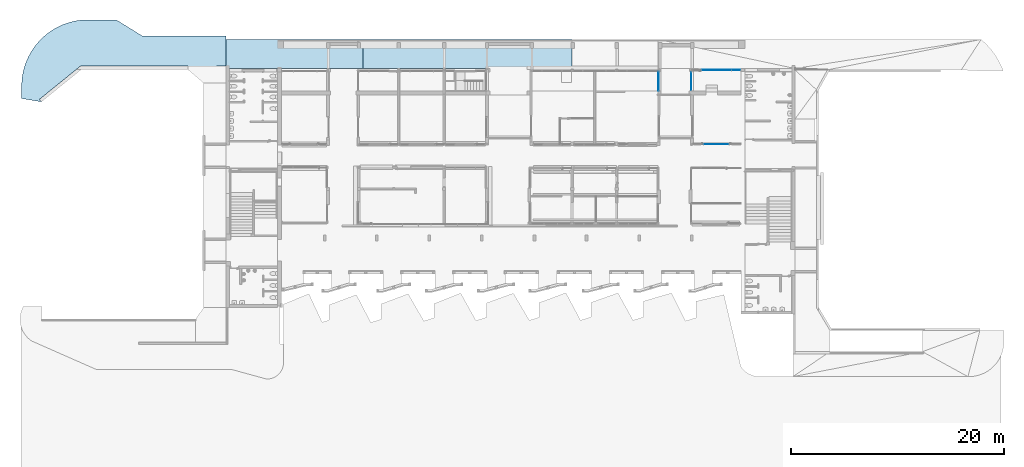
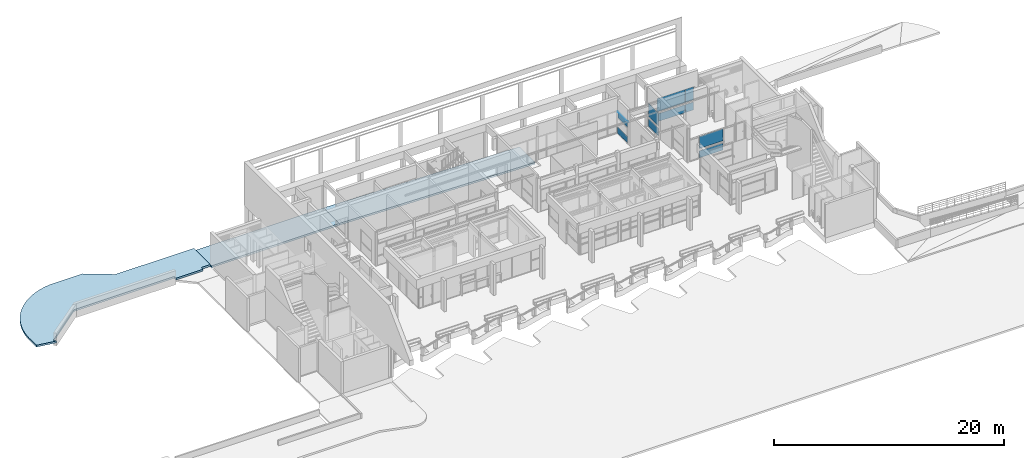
# One storey, part 45 of 117: 11 plates, 3 slabs, 5 elements without a shape of their own.
"""IFC4 building model written with IfcOpenShell, lengths in metres."""

from ifc_helpers import new_model, entity, si_unit, converted_unit, derived_unit, direction, frame, origin, place, context, subcontext, project, spatial, line, arc, indexed_curve, outline, extrude, source, transform, mapped, material, type_object, type_shapes, element, aggregate, save


model = new_model("IFC4")

# Units and contexts
model_context = context("Model", 3, precision=1e-05, world=origin(), true_north=direction((6.123031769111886e-17, 1.0)))
body_context = subcontext(model_context, "Body", "Model", "MODEL_VIEW")
ifc_project = project(units=[si_unit("LENGTHUNIT", "METRE"), si_unit("AREAUNIT", "SQUARE_METRE"), si_unit("VOLUMEUNIT", "CUBIC_METRE"), converted_unit("PLANEANGLEUNIT", "DEGREE", entity("IfcRatioMeasure", 0.017453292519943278), si_unit("PLANEANGLEUNIT", "RADIAN"), dimensions=[0, 0, 0, 0, 0, 0, 0]), si_unit("MASSUNIT", "GRAM", prefix="KILO"), derived_unit("MASSDENSITYUNIT", [(si_unit("MASSUNIT", "GRAM", prefix="KILO"), 1), (si_unit("LENGTHUNIT", "METRE"), -3)]), derived_unit("MOMENTOFINERTIAUNIT", [(si_unit("LENGTHUNIT", "METRE"), 4)]), si_unit("TIMEUNIT", "SECOND"), si_unit("FREQUENCYUNIT", "HERTZ"), si_unit("THERMODYNAMICTEMPERATUREUNIT", "DEGREE_CELSIUS"), derived_unit("THERMALTRANSMITTANCEUNIT", [(si_unit("MASSUNIT", "GRAM", prefix="KILO"), 1), (si_unit("THERMODYNAMICTEMPERATUREUNIT", "KELVIN"), -1), (si_unit("TIMEUNIT", "SECOND"), -3)]), derived_unit("VOLUMETRICFLOWRATEUNIT", [(si_unit("LENGTHUNIT", "METRE"), 3), (si_unit("TIMEUNIT", "SECOND"), -1)]), derived_unit("MASSFLOWRATEUNIT", [(si_unit("MASSUNIT", "GRAM", prefix="KILO"), 1), (si_unit("TIMEUNIT", "SECOND"), -1)]), derived_unit("ROTATIONALFREQUENCYUNIT", [(si_unit("TIMEUNIT", "SECOND"), -1)]), si_unit("ELECTRICCURRENTUNIT", "AMPERE"), si_unit("ELECTRICVOLTAGEUNIT", "VOLT"), si_unit("POWERUNIT", "WATT"), si_unit("FORCEUNIT", "NEWTON", prefix="KILO"), si_unit("ILLUMINANCEUNIT", "LUX"), si_unit("LUMINOUSFLUXUNIT", "LUMEN"), si_unit("LUMINOUSINTENSITYUNIT", "CANDELA"), derived_unit("USERDEFINED", [(si_unit("MASSUNIT", "GRAM", prefix="KILO"), -1), (si_unit("LENGTHUNIT", "METRE"), -2), (si_unit("TIMEUNIT", "SECOND"), 3), (si_unit("LUMINOUSFLUXUNIT", "LUMEN"), 1)]), derived_unit("SOUNDPOWERUNIT", [(si_unit("MASSUNIT", "GRAM", prefix="KILO"), 1), (si_unit("LENGTHUNIT", "METRE"), 2), (si_unit("TIMEUNIT", "SECOND"), -3)]), derived_unit("SOUNDPRESSUREUNIT", [(si_unit("MASSUNIT", "GRAM", prefix="KILO"), 1), (si_unit("LENGTHUNIT", "METRE"), -1), (si_unit("TIMEUNIT", "SECOND"), -2)]), derived_unit("LINEARVELOCITYUNIT", [(si_unit("LENGTHUNIT", "METRE"), 1), (si_unit("TIMEUNIT", "SECOND"), -1)]), si_unit("PRESSUREUNIT", "PASCAL"), derived_unit("USERDEFINED", [(si_unit("LENGTHUNIT", "METRE"), -2), (si_unit("MASSUNIT", "GRAM", prefix="KILO"), 1), (si_unit("TIMEUNIT", "SECOND"), -2)]), derived_unit("LINEARFORCEUNIT", [(si_unit("MASSUNIT", "GRAM", prefix="KILO"), 1), (si_unit("LENGTHUNIT", "METRE"), 1), (si_unit("TIMEUNIT", "SECOND"), -2), (si_unit("LENGTHUNIT", "METRE"), -1)]), derived_unit("PLANARFORCEUNIT", [(si_unit("MASSUNIT", "GRAM", prefix="KILO"), 1), (si_unit("LENGTHUNIT", "METRE"), 1), (si_unit("TIMEUNIT", "SECOND"), -2), (si_unit("LENGTHUNIT", "METRE"), -2)])], contexts=[model_context])

# Site, building, storey
site_placement = place(None, origin())
site = spatial("IfcSite", under=ifc_project, at=site_placement, Name="Superficie", CompositionType="ELEMENT")
building_placement = place(site_placement, origin())
building = spatial("IfcBuilding", under=site, at=building_placement, CompositionType="ELEMENT")
storey_placement = place(building_placement, origin())
storey = spatial("IfcBuildingStorey", under=building, at=storey_placement, Name="Nivel 0", CompositionType="ELEMENT", Elevation=0.0)

# Curtain wall, plates
curtain_wall_type = type_object("IfcCurtainWallType", Name="Muro cortina:Muro cortina - simple", PredefinedType="NOTDEFINED")
curtain_wall_1_placement = place(storey_placement, origin())
curtain_wall_1 = element("IfcCurtainWall", 1, at=curtain_wall_1_placement, inside=storey, type_object=curtain_wall_type, Name="Muro cortina:Muro cortina - simple", ObjectType="Muro cortina:Muro cortina - simple", PredefinedType="NOTDEFINED")
ifc_material_1 = material(Name="Cristal", Category="Vidrio")
plate_type_1 = type_object("IfcPlateType", Name="Panel de sistema:Acristalado", PredefinedType="CURTAIN_PANEL", material=ifc_material_1)
shared_shape_1 = source(origin(), body_context, "Body", "SweptSolid", [
    extrude(outline(indexed_curve([(-0.01, -1.1825000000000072), (0.01, -1.1825000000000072), (0.01, 1.1825000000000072), (-0.01, 1.1825000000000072), (-0.01, -1.1825000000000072)], self_intersect=False)), frame((0.0, 0.0, 0.0), z_axis=(0.0, 0.0, 1.0), x_axis=(0.0, 1.0, 0.0)), (0.0, 0.0, 1.0), 0.7500000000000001),
])
type_shapes(plate_type_1, [shared_shape_1])
plate_1_placement = place(curtain_wall_1_placement, frame((18.27929901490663, 5.766739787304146, 0.04499999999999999)))
plate_1 = element("IfcPlate", 2, at=plate_1_placement, type_object=plate_type_1, material=ifc_material_1, Name="Panel de sistema:Acristalado", ObjectType="Panel de sistema:Acristalado", PredefinedType="CURTAIN_PANEL", context=body_context, shape_type="MappedRepresentation", body=[
    mapped(shared_shape_1, transform((0.0, 0.0, 0.0), scale=1.0)),
])
plate_type_2 = type_object("IfcPlateType", Name="Panel de sistema:Acristalado", PredefinedType="CURTAIN_PANEL", material=ifc_material_1)
shared_shape_2 = source(origin(), body_context, "Body", "SweptSolid", [
    extrude(outline(indexed_curve([(-0.01, -1.1825000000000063), (0.01, -1.1825000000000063), (0.01, 1.1825000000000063), (-0.01, 1.1825000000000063), (-0.01, -1.1825000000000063)], self_intersect=False)), frame((0.0, 0.0, 0.0), z_axis=(0.0, 0.0, 1.0), x_axis=(0.0, 1.0, 0.0)), (0.0, 0.0, 1.0), 1.2849999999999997),
])
type_shapes(plate_type_2, [shared_shape_2])
plate_2_placement = place(curtain_wall_1_placement, frame((18.27929901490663, 5.766739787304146, 1.0450000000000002)))
plate_2 = element("IfcPlate", 3, at=plate_2_placement, type_object=plate_type_2, material=ifc_material_1, Name="Panel de sistema:Acristalado", ObjectType="Panel de sistema:Acristalado", PredefinedType="CURTAIN_PANEL", context=body_context, shape_type="MappedRepresentation", body=[
    mapped(shared_shape_2, transform((0.0, 0.0, 0.0), scale=1.0)),
])
aggregate(curtain_wall_1, [plate_1, plate_2])

# Slab
ifc_material_2 = material(Name="Suelos por defecto", Category="Genérico")
slab_type_1 = type_object("IfcSlabType", Name="Suelo:Por defecto - 20 cm 2", PredefinedType="FLOOR", material=ifc_material_2)
slab_1_placement = place(storey_placement, origin())
element("IfcSlab", 4, at=slab_1_placement, inside=storey, type_object=slab_type_1, material=ifc_material_2, Name="Suelo:Por defecto - 20 cm 2", ObjectType="Suelo:Por defecto - 20 cm 2", PredefinedType="FLOOR", context=body_context, shape_type="SweptSolid", body=[
    extrude(outline(indexed_curve([(-2.688900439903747, -9.14633842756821), (0.1610995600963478, -9.14633842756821), (0.16109956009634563, -8.22633842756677), (0.46109956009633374, -8.22633842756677), (0.46109956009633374, -5.526338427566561), (0.16109956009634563, -5.526338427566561), (0.16109956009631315, 4.5798971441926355), (3.278699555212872, 8.429812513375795), (3.511843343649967, 8.241016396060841), (3.1992307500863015, 10.104482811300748), (2.199230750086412, 10.10448281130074), (-2.1256870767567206, 8.52033828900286), (-4.18890043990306, 4.402380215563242), (-4.18890043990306, 1.1814758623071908), (-2.688900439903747, -1.245517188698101)], segments=[line(1, 2, 3, 4, 5, 6, 7, 8, 9, 10, 11), arc(11, 12, 13), line(13, 14, 15, 1)], self_intersect=False)), frame((-36.98953941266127, 13.256928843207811, 0.0), z_axis=(0.0, 0.0, -1.0), x_axis=(0.0, -1.0, 0.0)), (0.0, 0.0, 1.0), 0.2),
])

# Curtain wall, plates
curtain_wall_2_placement = place(storey_placement, origin())
curtain_wall_2 = element("IfcCurtainWall", 5, at=curtain_wall_2_placement, inside=storey, type_object=curtain_wall_type, Name="Muro cortina:Muro cortina - simple", ObjectType="Muro cortina:Muro cortina - simple", PredefinedType="NOTDEFINED")
plate_type_3 = type_object("IfcPlateType", Name="Panel de sistema:Acristalado", PredefinedType="CURTAIN_PANEL", material=ifc_material_1)
shared_shape_3 = source(origin(), body_context, "Body", "SweptSolid", [
    extrude(outline(indexed_curve([(-0.01, -0.8843595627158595), (0.01, -0.8843595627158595), (0.01, 0.8843595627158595), (-0.01, 0.8843595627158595), (-0.01, -0.8843595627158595)], self_intersect=False)), frame((0.0, 0.0, 0.0), z_axis=(0.0, 0.0, 1.0), x_axis=(0.0, 1.0, 0.0)), (0.0, 0.0, 1.0), 0.6761203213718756),
])
type_shapes(plate_type_3, [shared_shape_3])
plate_3_placement = place(curtain_wall_2_placement, frame((12.840568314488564, 11.700188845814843, 0.028879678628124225), z_axis=(0.0, 0.0, 1.0), x_axis=(0.0, 1.0, 0.0)))
plate_3 = element("IfcPlate", 6, at=plate_3_placement, type_object=plate_type_3, material=ifc_material_1, Name="Panel de sistema:Acristalado", ObjectType="Panel de sistema:Acristalado", PredefinedType="CURTAIN_PANEL", context=body_context, shape_type="MappedRepresentation", body=[
    mapped(shared_shape_3, transform((0.0, 0.0, 0.0), scale=1.0)),
])
plate_type_4 = type_object("IfcPlateType", Name="Panel de sistema:Acristalado", PredefinedType="CURTAIN_PANEL", material=ifc_material_1)
shared_shape_4 = source(origin(), body_context, "Body", "SweptSolid", [
    extrude(outline(indexed_curve([(-0.01, -0.8593595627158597), (0.01, -0.8593595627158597), (0.01, 0.8593595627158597), (-0.01, 0.8593595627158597), (-0.01, -0.8593595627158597)], self_intersect=False)), frame((0.0, 0.0, 0.0), z_axis=(0.0, 0.0, 1.0), x_axis=(0.0, 1.0, 0.0)), (0.0, 0.0, 1.0), 0.5750000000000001),
])
type_shapes(plate_type_4, [shared_shape_4])
plate_4_placement = place(curtain_wall_2_placement, frame((12.840568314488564, 11.675188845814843, 1.7049999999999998), z_axis=(0.0, 0.0, 1.0), x_axis=(0.0, 1.0, 0.0)))
plate_4 = element("IfcPlate", 7, at=plate_4_placement, type_object=plate_type_4, material=ifc_material_1, Name="Panel de sistema:Acristalado", ObjectType="Panel de sistema:Acristalado", PredefinedType="CURTAIN_PANEL", context=body_context, shape_type="MappedRepresentation", body=[
    mapped(shared_shape_4, transform((0.0, 0.0, 0.0), scale=1.0)),
])
plate_type_5 = type_object("IfcPlateType", Name="Panel de sistema:Acristalado", PredefinedType="CURTAIN_PANEL", material=ifc_material_1)
shared_shape_5 = source(origin(), body_context, "Body", "SweptSolid", [
    extrude(outline(indexed_curve([(-0.01, -0.8968595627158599), (0.01, -0.8968595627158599), (0.01, 0.8968595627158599), (-0.01, 0.8968595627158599), (-0.01, -0.8968595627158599)], self_intersect=False)), frame((0.0, 0.0, 0.0), z_axis=(0.0, 0.0, 1.0), x_axis=(0.0, 1.0, 0.0)), (0.0, 0.0, 1.0), 0.020000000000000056),
])
type_shapes(plate_type_5, [shared_shape_5])
plate_5_placement = place(curtain_wall_2_placement, frame((12.840568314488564, 11.687688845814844, 2.33), z_axis=(0.0, 0.0, 1.0), x_axis=(0.0, 1.0, 0.0)))
plate_5 = element("IfcPlate", 8, at=plate_5_placement, type_object=plate_type_5, material=ifc_material_1, Name="Panel de sistema:Acristalado", ObjectType="Panel de sistema:Acristalado", PredefinedType="CURTAIN_PANEL", context=body_context, shape_type="MappedRepresentation", body=[
    mapped(shared_shape_5, transform((0.0, 0.0, 0.0), scale=1.0)),
])
aggregate(curtain_wall_2, [plate_3, plate_4, plate_5])

# Slab
slab_type_2 = type_object("IfcSlabType", Name="Suelo:Por defecto - 20 cm 2", PredefinedType="FLOOR", material=ifc_material_2)
slab_2_placement = place(storey_placement, origin())
element("IfcSlab", 9, at=slab_2_placement, inside=storey, type_object=slab_type_2, material=ifc_material_2, Name="Suelo:Por defecto - 20 cm 2", ObjectType="Suelo:Por defecto - 20 cm 2", PredefinedType="FLOOR", context=body_context, shape_type="SweptSolid", body=[
    extrude(outline(indexed_curve([(-1.3749999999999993, -6.4244779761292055), (1.3749999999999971, -6.4244779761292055), (1.3749999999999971, 6.42447797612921), (-1.3749999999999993, 6.42447797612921), (-1.3749999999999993, -6.4244779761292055)], self_intersect=False)), frame((-21.418723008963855, 14.24582928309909, 0.0), z_axis=(0.0, 0.0, -1.0), x_axis=(0.0, 1.0, 0.0)), (0.0, 0.0, 1.0), 0.2),
])

# Slabs
slab_3_placement = place(storey_placement, origin())
slab_3 = element("IfcSlab", 10, at=slab_3_placement, inside=storey, Name="Suelo:Por defecto - 20 cm 2", ObjectType="Suelo:Por defecto - 20 cm 2", PredefinedType="NOTDEFINED")
slab_type_3 = type_object("IfcSlabType", Name="Suelo:Por defecto - 20 cm 2", PredefinedType="FLOOR")
slab_4_placement = place(storey_placement, origin())
slab_4 = element("IfcSlab", 11, at=slab_4_placement, type_object=slab_type_3, material=ifc_material_2, Name="Suelo:Por defecto - 20 cm 2", ObjectType="Suelo:Por defecto - 20 cm 2", PredefinedType="FLOOR", context=body_context, shape_type="SweptSolid", body=[
    extrude(outline(indexed_curve([(-9.847031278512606, 1.36572885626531), (-9.847031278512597, -1.3657288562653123), (9.847031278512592, -1.3657288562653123), (9.847031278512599, 1.36572885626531), (-9.847031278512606, 1.36572885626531)], self_intersect=False)), frame((-5.149245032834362, 14.250277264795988, -0.20000000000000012), z_axis=(0.02031069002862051, 0.0, 0.9997937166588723), x_axis=(0.9997937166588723, 0.0, -0.02031069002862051)), (0.02031069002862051, 0.0, -0.9997937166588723), 0.19999999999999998),
])
aggregate(slab_3, [slab_4])

# Curtain wall, plates
curtain_wall_3_placement = place(storey_placement, origin())
curtain_wall_3 = element("IfcCurtainWall", 12, at=curtain_wall_3_placement, inside=storey, type_object=curtain_wall_type, Name="Muro cortina:Muro cortina - simple", ObjectType="Muro cortina:Muro cortina - simple", PredefinedType="NOTDEFINED")
plate_type_6 = type_object("IfcPlateType", Name="Panel de sistema:Acristalado", PredefinedType="CURTAIN_PANEL", material=ifc_material_1)
shared_shape_6 = source(origin(), body_context, "Body", "SweptSolid", [
    extrude(outline(indexed_curve([(-0.01, -0.8568595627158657), (0.01, -0.8568595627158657), (0.01, 0.8568595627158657), (-0.01, 0.8568595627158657), (-0.01, -0.8568595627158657)], self_intersect=False)), frame((0.0, 0.0, 0.0), z_axis=(0.0, 0.0, 1.0), x_axis=(0.0, 1.0, 0.0)), (0.0, 0.0, 1.0), 0.825),
])
type_shapes(plate_type_6, [shared_shape_6])
plate_6_placement = place(curtain_wall_3_placement, frame((15.906001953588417, 11.677688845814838, -0.26759999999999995), z_axis=(0.0, 0.0, 1.0), x_axis=(0.0, -1.0, 0.0)))
plate_6 = element("IfcPlate", 13, at=plate_6_placement, type_object=plate_type_6, material=ifc_material_1, Name="Panel de sistema:Acristalado", ObjectType="Panel de sistema:Acristalado", PredefinedType="CURTAIN_PANEL", context=body_context, shape_type="MappedRepresentation", body=[
    mapped(shared_shape_6, transform((0.0, 0.0, 0.0), scale=1.0)),
])
plate_type_7 = type_object("IfcPlateType", Name="Panel de sistema:Acristalado", PredefinedType="CURTAIN_PANEL", material=ifc_material_1)
shared_shape_7 = source(origin(), body_context, "Body", "SweptSolid", [
    extrude(outline(indexed_curve([(-0.01, -0.8568595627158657), (0.01, -0.8568595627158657), (0.01, 0.8568595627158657), (-0.01, 0.8568595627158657), (-0.01, -0.8568595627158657)], self_intersect=False)), frame((0.0, 0.0, 0.0), z_axis=(0.0, 0.0, 1.0), x_axis=(0.0, 1.0, 0.0)), (0.0, 0.0, 1.0), 1.3825999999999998),
])
type_shapes(plate_type_7, [shared_shape_7])
plate_7_placement = place(curtain_wall_3_placement, frame((15.906001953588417, 11.677688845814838, 0.8073999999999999), z_axis=(0.0, 0.0, 1.0), x_axis=(0.0, -1.0, 0.0)))
plate_7 = element("IfcPlate", 14, at=plate_7_placement, type_object=plate_type_7, material=ifc_material_1, Name="Panel de sistema:Acristalado", ObjectType="Panel de sistema:Acristalado", PredefinedType="CURTAIN_PANEL", context=body_context, shape_type="MappedRepresentation", body=[
    mapped(shared_shape_7, transform((0.0, 0.0, 0.0), scale=1.0)),
])
aggregate(curtain_wall_3, [plate_6, plate_7])

curtain_wall_4_placement = place(storey_placement, origin())
curtain_wall_4 = element("IfcCurtainWall", 15, at=curtain_wall_4_placement, inside=storey, type_object=curtain_wall_type, Name="Muro cortina:Muro cortina - simple", ObjectType="Muro cortina:Muro cortina - simple", PredefinedType="NOTDEFINED")
plate_type_8 = type_object("IfcPlateType", Name="Panel de sistema:Acristalado", PredefinedType="CURTAIN_PANEL", material=ifc_material_1)
shared_shape_8 = source(origin(), body_context, "Body", "SweptSolid", [
    extrude(outline(indexed_curve([(-0.01, -1.3903985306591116), (0.01, -1.3903985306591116), (0.01, 1.3903985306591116), (-0.01, 1.3903985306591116), (-0.01, -1.3903985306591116)], self_intersect=False)), frame((0.0, 0.0, 0.0), z_axis=(0.0, 0.0, 1.0), x_axis=(0.0, 1.0, 0.0)), (0.0, 0.0, 1.0), 0.825),
])
type_shapes(plate_type_8, [shared_shape_8])
plate_8_placement = place(curtain_wall_4_placement, frame((18.27140048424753, 12.734548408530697, -0.2690268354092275)))
plate_8 = element("IfcPlate", 16, at=plate_8_placement, type_object=plate_type_8, material=ifc_material_1, Name="Panel de sistema:Acristalado", ObjectType="Panel de sistema:Acristalado", PredefinedType="CURTAIN_PANEL", context=body_context, shape_type="MappedRepresentation", body=[
    mapped(shared_shape_8, transform((0.0, 0.0, 0.0), scale=1.0)),
])
plate_type_9 = type_object("IfcPlateType", Name="Panel de sistema:Acristalado", PredefinedType="CURTAIN_PANEL", material=ifc_material_1)
shared_shape_9 = source(origin(), body_context, "Body", "SweptSolid", [
    extrude(outline(indexed_curve([(-0.01, -0.41249999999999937), (0.01, -0.41249999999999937), (0.01, 0.41249999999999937), (-0.01, 0.41249999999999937), (-0.01, -0.41249999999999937)], self_intersect=False)), frame((0.0, 0.0, 0.0), z_axis=(0.0, 0.0, 1.0), x_axis=(0.0, 1.0, 0.0)), (0.0, 0.0, 1.0), 0.825),
])
type_shapes(plate_type_9, [shared_shape_9])
plate_9_placement = place(curtain_wall_4_placement, frame((20.12429901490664, 12.73454840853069, -0.2690268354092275)))
plate_9 = element("IfcPlate", 17, at=plate_9_placement, type_object=plate_type_9, material=ifc_material_1, Name="Panel de sistema:Acristalado", ObjectType="Panel de sistema:Acristalado", PredefinedType="CURTAIN_PANEL", context=body_context, shape_type="MappedRepresentation", body=[
    mapped(shared_shape_9, transform((0.0, 0.0, 0.0), scale=1.0)),
])
plate_type_10 = type_object("IfcPlateType", Name="Panel de sistema:Acristalado", PredefinedType="CURTAIN_PANEL", material=ifc_material_1)
shared_shape_10 = source(origin(), body_context, "Body", "SweptSolid", [
    extrude(outline(indexed_curve([(-0.01, -1.3903985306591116), (0.01, -1.3903985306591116), (0.01, 1.3903985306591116), (-0.01, 1.3903985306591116), (-0.01, -1.3903985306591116)], self_intersect=False)), frame((0.0, 0.0, 0.0), z_axis=(0.0, 0.0, 1.0), x_axis=(0.0, 1.0, 0.0)), (0.0, 0.0, 1.0), 1.404026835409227),
])
type_shapes(plate_type_10, [shared_shape_10])
plate_10_placement = place(curtain_wall_4_placement, frame((18.27140048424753, 12.734548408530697, 0.8059731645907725)))
plate_10 = element("IfcPlate", 18, at=plate_10_placement, type_object=plate_type_10, material=ifc_material_1, Name="Panel de sistema:Acristalado", ObjectType="Panel de sistema:Acristalado", PredefinedType="CURTAIN_PANEL", context=body_context, shape_type="MappedRepresentation", body=[
    mapped(shared_shape_10, transform((0.0, 0.0, 0.0), scale=1.0)),
])
plate_type_11 = type_object("IfcPlateType", Name="Panel de sistema:Acristalado", PredefinedType="CURTAIN_PANEL", material=ifc_material_1)
shared_shape_11 = source(origin(), body_context, "Body", "SweptSolid", [
    extrude(outline(indexed_curve([(-0.01, -0.41249999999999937), (0.01, -0.41249999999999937), (0.01, 0.41249999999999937), (-0.01, 0.41249999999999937), (-0.01, -0.41249999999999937)], self_intersect=False)), frame((0.0, 0.0, 0.0), z_axis=(0.0, 0.0, 1.0), x_axis=(0.0, 1.0, 0.0)), (0.0, 0.0, 1.0), 1.404026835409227),
])
type_shapes(plate_type_11, [shared_shape_11])
plate_11_placement = place(curtain_wall_4_placement, frame((20.12429901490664, 12.73454840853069, 0.8059731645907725)))
plate_11 = element("IfcPlate", 19, at=plate_11_placement, type_object=plate_type_11, material=ifc_material_1, Name="Panel de sistema:Acristalado", ObjectType="Panel de sistema:Acristalado", PredefinedType="CURTAIN_PANEL", context=body_context, shape_type="MappedRepresentation", body=[
    mapped(shared_shape_11, transform((0.0, 0.0, 0.0), scale=1.0)),
])
aggregate(curtain_wall_4, [plate_8, plate_9, plate_10, plate_11])

save(model, "model.ifc")
